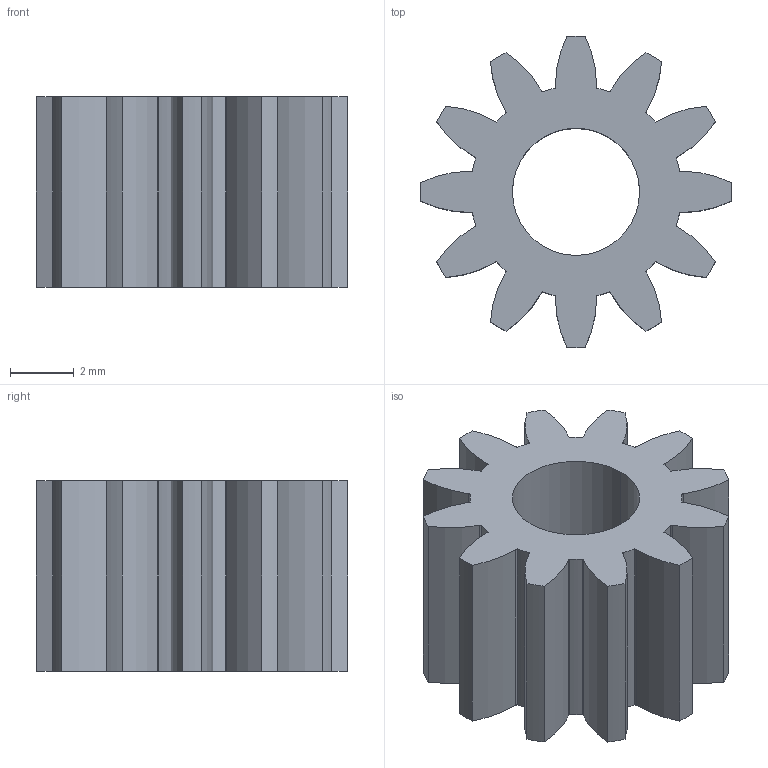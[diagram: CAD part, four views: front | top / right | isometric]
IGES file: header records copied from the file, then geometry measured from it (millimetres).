
Global section: file name: C:\Documents and Settings\Administrator\Desktop\Transfer Temp\drillmotorpinion.igs; native system: AutoDesk Inventor R2.0 ; preprocessor: AutoDesk Inventor Iges Exporter R2.0; author: No Author specified; organization: No Organization specified; date: 20011227.204001; units: millimetre
Bounding box: 9.8 x 9.8 x 6 mm (x, y, z)
Surface area: 475.5 mm2 (no closed solid volume)
Topology: 0 solids, 0 shells, 76 faces, 444 edges, 444 vertices
Faces by surface type: revolution 72, bspline 4
